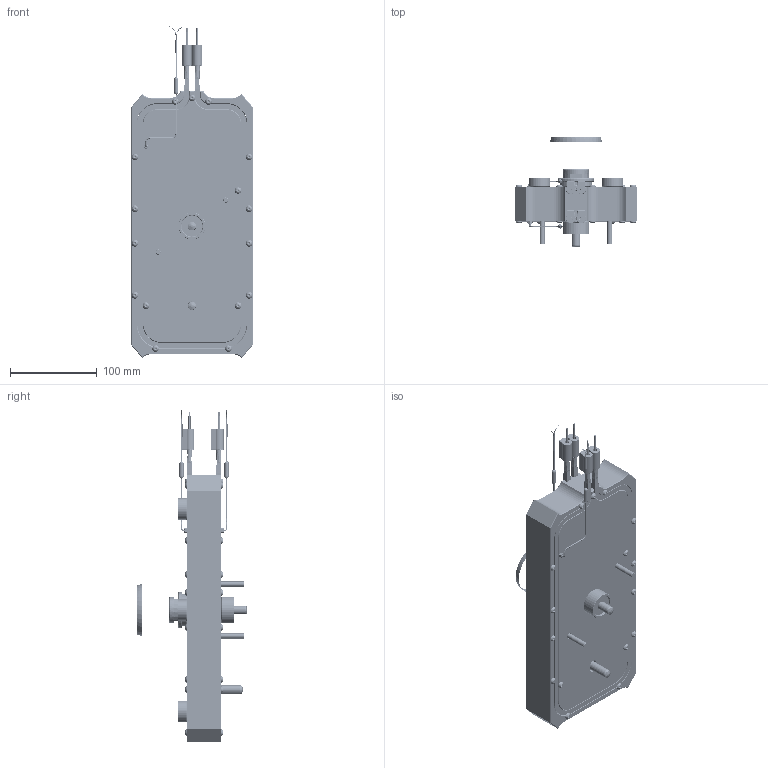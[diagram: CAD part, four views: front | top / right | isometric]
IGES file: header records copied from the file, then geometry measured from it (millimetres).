
Start section: SolidWorks IGES file using analytic representation for surfaces
Global section: file name: F:\CARTELLA CONDIVISA - 3D\01 - Piastre - 3D\Piastre Standard - Resistenza Sezione Quadrata 6x6\LP1-A06\Parte Multicorpo + Positivo Sede\CCLP1AQ-06T\CCLP1AQ-06T.IGS; native system: SolidWorks 2013; preprocessor: SolidWorks 2013; author: ws-20; date: 140130.151336; units: millimetre
Bounding box: 140 x 127.87 x 383.27 mm (x, y, z)
Surface area: 226822.4 mm2 (no closed solid volume)
Topology: 0 solids, 0 shells, 2505 faces, 25670 edges, 31043 vertices
Faces by surface type: bspline 1315, revolution 1190
